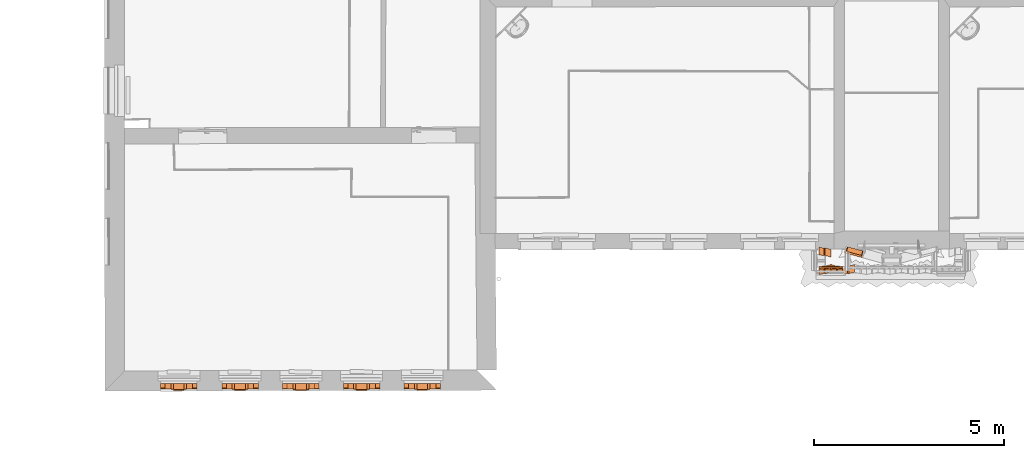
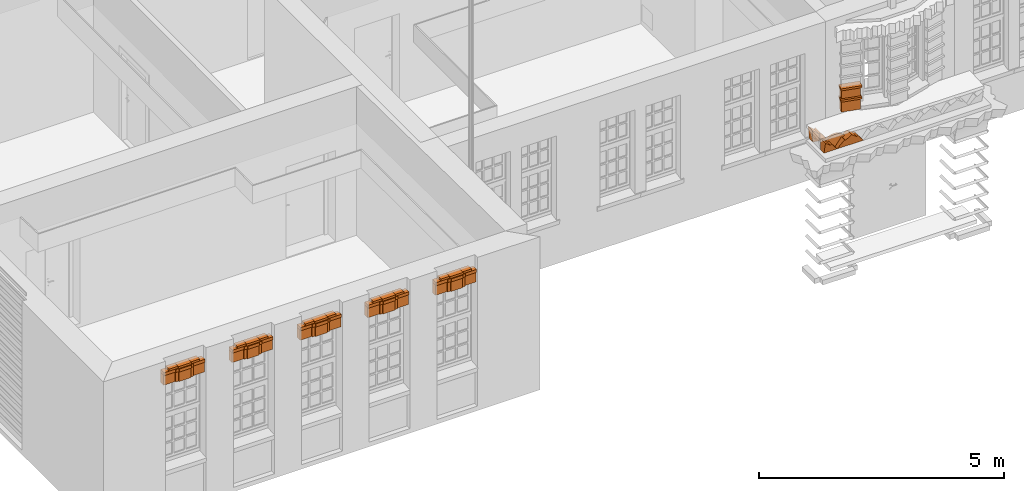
# One storey, part 139 of 158: 73 proxies.
"""IFC2X3 building model written with IfcOpenShell, lengths in metres."""

from ifc_helpers import new_model, entity, si_unit, converted_unit, derived_unit, money_unit, direction, frame, origin_with_axes, place, context, subcontext, project, spatial, faceted_brep, source, transform, mapped, material, type_object, element, save


model = new_model("IFC2X3")

# Units and contexts
model_context = context("Model", 3, precision=1e-05, world=origin_with_axes(), true_north=direction((0.0, 1.0)))
body_context = subcontext(model_context, "Body", "Model", "MODEL_VIEW")
ifc_project = project(units=[si_unit("LENGTHUNIT", "METRE"), si_unit("AREAUNIT", "SQUARE_METRE"), si_unit("VOLUMEUNIT", "CUBIC_METRE"), converted_unit("PLANEANGLEUNIT", "DEGREE", entity("IfcPlaneAngleMeasure", 0.0174532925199), si_unit("PLANEANGLEUNIT", "RADIAN"), dimensions=[0, 0, 0, 0, 0, 0, 0]), money_unit("EUR"), converted_unit("TIMEUNIT", "Year", entity("IfcTimeMeasure", 31556926.0), si_unit("TIMEUNIT", "SECOND"), dimensions=[0, 0, 1, 0, 0, 0, 0]), si_unit("MASSUNIT", "GRAM", prefix="KILO"), si_unit("THERMODYNAMICTEMPERATUREUNIT", "DEGREE_CELSIUS"), si_unit("LUMINOUSINTENSITYUNIT", "LUMEN"), si_unit("ENERGYUNIT", "JOULE", prefix="MEGA"), derived_unit("THERMALCONDUCTANCEUNIT", [(si_unit("POWERUNIT", "WATT"), 1), (si_unit("LENGTHUNIT", "METRE"), -1), (si_unit("THERMODYNAMICTEMPERATUREUNIT", "KELVIN"), -1)]), derived_unit("SPECIFICHEATCAPACITYUNIT", [(si_unit("ENERGYUNIT", "JOULE"), 1), (si_unit("MASSUNIT", "GRAM", prefix="KILO"), -1), (si_unit("THERMODYNAMICTEMPERATUREUNIT", "KELVIN"), -1)]), derived_unit("MASSDENSITYUNIT", [(si_unit("MASSUNIT", "GRAM", prefix="KILO"), 1), (si_unit("VOLUMEUNIT", "CUBIC_METRE"), -1)])], contexts=[model_context])

# Site, building, storey
site_placement = place(None, origin_with_axes())
site = spatial("IfcSite", under=ifc_project, at=site_placement, Name="Gelände", CompositionType="ELEMENT")
building_placement = place(site_placement, origin_with_axes())
building = spatial("IfcBuilding", under=site, at=building_placement, Name="Gebäude", CompositionType="ELEMENT")
storey_placement = place(building_placement, origin_with_axes())
storey = spatial("IfcBuildingStorey", under=building, at=storey_placement, Name="ERDGESCHOSS", CompositionType="ELEMENT", Elevation=0.0)

# Proxies
ifc_material = material(Name="01_ALLGEMEIN - BAUTEIL")
building_element_proxy_type = type_object("IfcBuildingElementProxyType", Name="01_ALLGEMEIN - BAUTEIL", PredefinedType="NOTDEFINED")
shared_shape_1 = source(origin_with_axes(), body_context, "Body", "Brep", [
    faceted_brep([(-0.405369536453, -0.125335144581, 0.282016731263), (-0.405369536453, -0.125335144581, 0.0), (0.0, -0.125335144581, 0.0), (0.0, -0.125335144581, 0.282016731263), (-0.405369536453, 0.0, 0.282016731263), (-0.405369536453, 0.0, 0.0), (0.0, 0.0, 0.0), (0.0, 0.0, 0.282016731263)], [[[0, 1, 2, 3]], [[1, 0, 4, 5]], [[5, 6, 2, 1]], [[3, 2, 6, 7]], [[0, 3, 7, 4]], [[6, 5, 4, 7]]]),
])
proxy_1_placement = place(storey_placement, frame((-8.5617104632, 9.92608158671, 1.26897611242), z_axis=(0.0, 0.0, 1.0), x_axis=(-0.968191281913, 0.250211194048, 0.0)))
element("IfcBuildingElementProxy", 1, at=proxy_1_placement, inside=storey, type_object=building_element_proxy_type, material=ifc_material, Name="Morph-174", context=body_context, shape_type="MappedRepresentation", body=[
    mapped(shared_shape_1, transform((0.0, 0.0, 0.0))),
])
shared_shape_2 = source(origin_with_axes(), body_context, "Body", "Brep", [
    faceted_brep([(-0.02, -0.125335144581, 0.05), (0.425369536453, -0.125335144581, 0.05), (0.425369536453, 0.05, 0.05), (-0.02, 0.05, 0.05), (-0.02, -0.125335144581, 0.0), (0.425369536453, -0.125335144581, 0.0), (0.425369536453, 0.05, 0.0), (-0.02, 0.05, 0.0)], [[[0, 1, 2, 3]], [[0, 4, 5, 1]], [[1, 5, 6, 2]], [[6, 7, 3, 2]], [[4, 0, 3, 7]], [[7, 6, 5, 4]]]),
])
proxy_2_placement = place(storey_placement, frame((-8.16923521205, 9.82465359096, 1.55099284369), z_axis=(0.0, 0.0, 1.0), x_axis=(-0.968191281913, 0.250211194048, 0.0)))
element("IfcBuildingElementProxy", 2, at=proxy_2_placement, inside=storey, type_object=building_element_proxy_type, material=ifc_material, Name="Morph-175", context=body_context, shape_type="MappedRepresentation", body=[
    mapped(shared_shape_2, transform((0.0, 0.0, 0.0))),
])
shared_shape_3 = source(origin_with_axes(), body_context, "Body", "Brep", [
    faceted_brep([(-0.405369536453, -0.125335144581, 0.0), (-0.405369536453, -0.125335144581, -0.232016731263), (0.0, -0.125335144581, -0.232016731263), (0.0, -0.125335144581, 0.0), (-0.405369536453, 0.0, 0.0), (-0.405369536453, 0.0, -0.232016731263), (0.0, 0.0, -0.232016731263), (0.0, 0.0, 0.0)], [[[0, 1, 2, 3]], [[1, 0, 4, 5]], [[2, 1, 5, 6]], [[3, 2, 6, 7]], [[7, 4, 0, 3]], [[4, 7, 6, 5]]]),
])
proxy_3_placement = place(storey_placement, frame((-8.5617104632, 9.92608158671, 1.83300957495), z_axis=(0.0, 0.0, 1.0), x_axis=(-0.968191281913, 0.250211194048, 0.0)))
element("IfcBuildingElementProxy", 3, at=proxy_3_placement, inside=storey, type_object=building_element_proxy_type, material=ifc_material, Name="Morph-176", context=body_context, shape_type="MappedRepresentation", body=[
    mapped(shared_shape_3, transform((0.0, 0.0, 0.0))),
])
shared_shape_4 = source(origin_with_axes(), body_context, "Body", "Brep", [
    faceted_brep([(0.02, -0.125335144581, -0.05), (-0.425369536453, -0.125335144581, -0.05), (-0.425369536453, 0.05, -0.05), (0.02, 0.05, -0.05), (-0.425369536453, -0.125335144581, 0.0), (0.02, -0.125335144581, 0.0), (-0.425369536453, 0.05, 0.0), (0.02, 0.05, 0.0)], [[[0, 1, 2, 3]], [[4, 1, 0, 5]], [[1, 4, 6, 2]], [[6, 7, 3, 2]], [[5, 0, 3, 7]], [[7, 6, 4, 5]]]),
])
proxy_4_placement = place(storey_placement, frame((-8.5617104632, 9.92608158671, 1.88300957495), z_axis=(0.0, 0.0, 1.0), x_axis=(-0.968191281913, 0.250211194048, 0.0)))
element("IfcBuildingElementProxy", 4, at=proxy_4_placement, inside=storey, type_object=building_element_proxy_type, material=ifc_material, Name="Morph-177", context=body_context, shape_type="MappedRepresentation", body=[
    mapped(shared_shape_4, transform((0.0, 0.0, 0.0))),
])
shared_shape_5 = source(origin_with_axes(), body_context, "Body", "Brep", [
    faceted_brep([(-0.302076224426, 0.0, 0.0689469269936), (-0.279160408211, 0.0, 0.134436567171), (-0.279160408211, 0.05, 0.134436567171), (-0.302076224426, 0.05, 0.0689469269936), (-0.309844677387, 0.0, 0.0), (0.309844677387, 0.0, 0.0), (0.302076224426, 0.0, 0.0689469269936), (0.279160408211, 0.0, 0.134436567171), (0.242246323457, 0.0, 0.193184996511), (0.193184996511, 0.0, 0.242246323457), (0.134436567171, 0.0, 0.279160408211), (0.0689469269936, 0.0, 0.302076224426), (0.0, 0.0, 0.309844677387), (-0.0689469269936, 0.0, 0.302076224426), (-0.134436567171, 0.0, 0.279160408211), (-0.193184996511, 0.0, 0.242246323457), (-0.242246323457, 0.0, 0.193184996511), (-0.242246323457, 0.05, 0.193184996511), (-0.309844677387, 0.05, 0.0), (-0.193184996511, 0.05, 0.242246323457), (-0.134436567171, 0.05, 0.279160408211), (-0.0689469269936, 0.05, 0.302076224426), (0.0, 0.05, 0.309844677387), (0.0689469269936, 0.05, 0.302076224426), (0.134436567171, 0.05, 0.279160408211), (0.193184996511, 0.05, 0.242246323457), (0.242246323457, 0.05, 0.193184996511), (0.279160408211, 0.05, 0.134436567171), (0.302076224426, 0.05, 0.0689469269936), (0.309844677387, 0.05, 0.0)], [[[0, 1, 2, 3]], [[0, 4, 5, 6, 7, 8, 9, 10, 11, 12, 13, 14, 15, 16, 1]], [[1, 16, 17, 2]], [[18, 3, 2, 17, 19, 20, 21, 22, 23, 24, 25, 26, 27, 28, 29]], [[4, 0, 3, 18]], [[4, 18, 29, 5]], [[6, 5, 29, 28]], [[27, 7, 6, 28]], [[8, 7, 27, 26]], [[9, 8, 26, 25]], [[10, 9, 25, 24]], [[11, 10, 24, 23]], [[12, 11, 23, 22]], [[13, 12, 22, 21]], [[14, 13, 21, 20]], [[15, 14, 20, 19]], [[16, 15, 19, 17]]]),
])
proxy_5_placement = place(storey_placement, frame((-8.97287873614, 9.47253947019, 0.8259985), z_axis=(0.0, 0.0, 1.0), x_axis=(1.0, 0.0, 0.0)))
element("IfcBuildingElementProxy", 5, at=proxy_5_placement, inside=storey, type_object=building_element_proxy_type, material=ifc_material, Name="Morph-186", context=body_context, shape_type="MappedRepresentation", body=[
    mapped(shared_shape_5, transform((0.0, 0.0, 0.0))),
])
shared_shape_6 = source(origin_with_axes(), body_context, "Body", "Brep", [
    faceted_brep([(-0.000199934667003, 0.14330366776, -0.025), (0.0, 0.0, -0.025), (0.205766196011, 0.000287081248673, -0.025), (0.205566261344, 0.143590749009, -0.025), (0.0, 0.0, -0.0752610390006), (-0.000199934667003, 0.14330366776, -0.0752610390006), (0.205766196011, 0.000287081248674, -0.0752610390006), (0.205566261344, 0.143590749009, -0.0752610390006)], [[[0, 1, 2, 3]], [[4, 1, 0, 5]], [[1, 4, 6, 2]], [[2, 6, 7, 3]], [[5, 0, 3, 7]], [[4, 5, 7, 6]]]),
])
for number, where, z_axis, x_axis, name in (
    (6, (-24.3442608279, 6.31822175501, 3.3562370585), (0.0, 0.0, 1.0), (1.0, 0.0, 0.0), "Morph-286"),
    (7, (-22.7432662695, 6.31377228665, 3.3562370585), (0.0, 0.0, 1.0), (1.0, 0.0, 0.0), "Morph-286"),
    (8, (-19.5540988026, 6.31822175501, 3.3562370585), (0.0, 0.0, 1.0), (1.0, 0.0, 0.0), "Morph-286"),
    (9, (-21.1506305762, 6.31599430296, 3.3562370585), (0.0, 0.0, 1.0), (1.0, 0.0, 0.0), "Morph-286"),
    (10, (-25.9520304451, 6.31822175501, 3.3562370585), (0.0, 0.0, 1.0), (1.0, 0.0, 0.0), "Morph-286"),
):
    element("IfcBuildingElementProxy", number, at=place(storey_placement, frame(where, z_axis=z_axis, x_axis=x_axis)), inside=storey, type_object=building_element_proxy_type, material=ifc_material, Name=name, context=body_context, shape_type="MappedRepresentation", body=[
        mapped(shared_shape_6, transform((0.0, 0.0, 0.0))),
    ])
shared_shape_7 = source(origin_with_axes(), body_context, "Body", "Brep", [
    faceted_brep([(-0.205966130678, 0.143016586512, -0.0752610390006), (-0.205966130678, 0.143016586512, -0.025), (-0.000199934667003, 0.14330366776, -0.025), (-0.000199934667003, 0.14330366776, -0.0752610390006), (-0.205766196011, -0.000287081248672, -0.0752610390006), (-0.205766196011, -0.000287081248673, -0.025), (0.0, 0.0, -0.025), (0.0, 0.0, -0.0752610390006)], [[[0, 1, 2, 3]], [[4, 5, 1, 0]], [[1, 5, 6, 2]], [[3, 2, 6, 7]], [[4, 0, 3, 7]], [[5, 4, 7, 6]]]),
])
for number, where, z_axis, x_axis, name in (
    (11, (-24.6531935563, 6.31779073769, 3.3562370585), (0.0, 0.0, 1.0), (1.0, 0.0, 0.0), "Morph-287"),
    (12, (-21.4595633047, 6.31556328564, 3.3562370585), (0.0, 0.0, 1.0), (1.0, 0.0, 0.0), "Morph-287"),
    (13, (-19.863031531, 6.31779073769, 3.3562370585), (0.0, 0.0, 1.0), (1.0, 0.0, 0.0), "Morph-287"),
    (14, (-23.0521989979, 6.31334126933, 3.3562370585), (0.0, 0.0, 1.0), (1.0, 0.0, 0.0), "Morph-287"),
    (15, (-26.2609631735, 6.31779073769, 3.3562370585), (0.0, 0.0, 1.0), (1.0, 0.0, 0.0), "Morph-287"),
):
    element("IfcBuildingElementProxy", number, at=place(storey_placement, frame(where, z_axis=z_axis, x_axis=x_axis)), inside=storey, type_object=building_element_proxy_type, material=ifc_material, Name=name, context=body_context, shape_type="MappedRepresentation", body=[
        mapped(shared_shape_7, transform((0.0, 0.0, 0.0))),
    ])
shared_shape_8 = source(origin_with_axes(), body_context, "Body", "Brep", [
    faceted_brep([(-0.000200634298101, 0.14380513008, 0.0752610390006), (0.0, 0.0, 0.0752610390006), (0.273425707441, 0.000381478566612, 0.0752610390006), (0.273225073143, 0.144186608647, 0.0752610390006), (-0.000200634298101, 0.14380513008, 0.0), (0.0, 0.0, 0.0), (0.273425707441, 0.000381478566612, 0.0), (0.273225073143, 0.144186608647, 0.0)], [[[0, 1, 2, 3]], [[1, 0, 4, 5]], [[5, 6, 2, 1]], [[7, 3, 2, 6]], [[4, 0, 3, 7]], [[5, 4, 7, 6]]]),
])
for number, where, z_axis, x_axis, name in (
    (16, (-26.5856630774, 6.316836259, 3.2057149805), (0.0, 0.0, 1.0), (1.0, 0.0, 0.0), "Morph-288"),
    (17, (-24.9778934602, 6.316836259, 3.2057149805), (0.0, 0.0, 1.0), (1.0, 0.0, 0.0), "Morph-288"),
    (18, (-21.7842632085, 6.31460880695, 3.2057149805), (0.0, 0.0, 1.0), (1.0, 0.0, 0.0), "Morph-288"),
    (19, (-20.1877314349, 6.316836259, 3.2057149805), (0.0, 0.0, 1.0), (1.0, 0.0, 0.0), "Morph-288"),
    (20, (-23.3768989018, 6.31238679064, 3.2057149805), (0.0, 0.0, 1.0), (1.0, 0.0, 0.0), "Morph-288"),
):
    element("IfcBuildingElementProxy", number, at=place(storey_placement, frame(where, z_axis=z_axis, x_axis=x_axis)), inside=storey, type_object=building_element_proxy_type, material=ifc_material, Name=name, context=body_context, shape_type="MappedRepresentation", body=[
        mapped(shared_shape_8, transform((0.0, 0.0, 0.0))),
    ])
shared_shape_9 = source(origin_with_axes(), body_context, "Body", "Brep", [
    faceted_brep([(-0.000200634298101, 0.14380513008, 0.0752610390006), (-2.79036085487e-05, 0.0199999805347, 0.0752610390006), (0.273397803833, 0.0203814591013, 0.0752610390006), (0.273225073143, 0.144186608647, 0.0752610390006), (-0.000200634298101, 0.14380513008, -0.174645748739), (-2.79036085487e-05, 0.0199999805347, -0.174645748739), (0.273397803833, 0.0203814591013, -0.174645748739), (0.273225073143, 0.144186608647, -0.174645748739)], [[[0, 1, 2, 3]], [[1, 0, 4, 5]], [[5, 6, 2, 1]], [[7, 3, 2, 6]], [[4, 0, 3, 7]], [[5, 4, 7, 6]]]),
])
for number, where, z_axis, x_axis, name in (
    (21, (-26.5856630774, 6.316836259, 3.1304539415), (0.0, 0.0, 1.0), (1.0, 0.0, 0.0), "Morph-288"),
    (22, (-21.7842632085, 6.31460880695, 3.1304539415), (0.0, 0.0, 1.0), (1.0, 0.0, 0.0), "Morph-288"),
    (23, (-20.1877314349, 6.316836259, 3.1304539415), (0.0, 0.0, 1.0), (1.0, 0.0, 0.0), "Morph-288"),
    (24, (-23.3768989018, 6.31238679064, 3.1304539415), (0.0, 0.0, 1.0), (1.0, 0.0, 0.0), "Morph-288"),
    (25, (-24.9778934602, 6.316836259, 3.1304539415), (0.0, 0.0, 1.0), (1.0, 0.0, 0.0), "Morph-288"),
):
    element("IfcBuildingElementProxy", number, at=place(storey_placement, frame(where, z_axis=z_axis, x_axis=x_axis)), inside=storey, type_object=building_element_proxy_type, material=ifc_material, Name=name, context=body_context, shape_type="MappedRepresentation", body=[
        mapped(shared_shape_9, transform((0.0, 0.0, 0.0))),
    ])
shared_shape_10 = source(origin_with_axes(), body_context, "Body", "Brep", [
    faceted_brep([(-0.000200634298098, 0.14380513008, -0.249906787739), (0.0, 0.0, -0.249906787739), (0.0, 0.0, 0.0), (-0.000200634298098, 0.14380513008, 0.0), (0.0661018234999, 0.143897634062, -0.249906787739), (0.0663024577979, 9.25039814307e-05, -0.249906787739), (0.0663024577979, 9.25039814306e-05, 0.0), (0.0661018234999, 0.143897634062, 0.0)], [[[0, 1, 2, 3]], [[1, 0, 4, 5]], [[6, 2, 1, 5]], [[3, 2, 6, 7]], [[0, 3, 7, 4]], [[6, 5, 4, 7]]]),
])
for number, where, z_axis, x_axis, name in (
    (26, (-23.1034731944, 6.31276826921, 3.2057149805), (0.0, 0.0, 1.0), (1.0, 0.0, 0.0), "Morph-289"),
    (27, (-24.7044677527, 6.31721773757, 3.2057149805), (0.0, 0.0, 1.0), (1.0, 0.0, 0.0), "Morph-289"),
    (28, (-21.5108375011, 6.31499028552, 3.2057149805), (0.0, 0.0, 1.0), (1.0, 0.0, 0.0), "Morph-289"),
    (29, (-26.3122373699, 6.31721773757, 3.2057149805), (0.0, 0.0, 1.0), (1.0, 0.0, 0.0), "Morph-289"),
    (30, (-19.9143057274, 6.31721773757, 3.2057149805), (0.0, 0.0, 1.0), (1.0, 0.0, 0.0), "Morph-289"),
):
    element("IfcBuildingElementProxy", number, at=place(storey_placement, frame(where, z_axis=z_axis, x_axis=x_axis)), inside=storey, type_object=building_element_proxy_type, material=ifc_material, Name=name, context=body_context, shape_type="MappedRepresentation", body=[
        mapped(shared_shape_10, transform((0.0, 0.0, 0.0))),
    ])
shared_shape_11 = source(origin_with_axes(), body_context, "Body", "Brep", [
    faceted_brep([(-0.000200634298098, 0.14380513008, -0.0752610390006), (2.79036085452e-05, -0.0199999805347, -0.0752610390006), (2.79036085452e-05, -0.0199999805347, 0.0), (-0.000200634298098, 0.14380513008, 0.0), (0.0661018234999, 0.143897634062, -0.0752610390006), (0.0663303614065, -0.0199074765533, -0.0752610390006), (0.0663303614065, -0.0199074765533, 0.0), (0.0661018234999, 0.143897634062, 0.0)], [[[0, 1, 2, 3]], [[1, 0, 4, 5]], [[6, 2, 1, 5]], [[3, 2, 6, 7]], [[0, 3, 7, 4]], [[6, 5, 4, 7]]]),
])
for number, where, z_axis, x_axis, name in (
    (31, (-21.5108375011, 6.31499028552, 3.2809760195), (0.0, 0.0, 1.0), (1.0, 0.0, 0.0), "Morph-289"),
    (32, (-24.7044677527, 6.31721773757, 3.2809760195), (0.0, 0.0, 1.0), (1.0, 0.0, 0.0), "Morph-289"),
    (33, (-23.1034731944, 6.31276826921, 3.2809760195), (0.0, 0.0, 1.0), (1.0, 0.0, 0.0), "Morph-289"),
    (34, (-19.9143057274, 6.31721773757, 3.2809760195), (0.0, 0.0, 1.0), (1.0, 0.0, 0.0), "Morph-289"),
    (35, (-26.3122373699, 6.31721773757, 3.2809760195), (0.0, 0.0, 1.0), (1.0, 0.0, 0.0), "Morph-289"),
):
    element("IfcBuildingElementProxy", number, at=place(storey_placement, frame(where, z_axis=z_axis, x_axis=x_axis)), inside=storey, type_object=building_element_proxy_type, material=ifc_material, Name=name, context=body_context, shape_type="MappedRepresentation", body=[
        mapped(shared_shape_11, transform((0.0, 0.0, 0.0))),
    ])
shared_shape_12 = source(origin_with_axes(), body_context, "Body", "Brep", [
    faceted_brep([(-0.000200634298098, 0.14380513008, 0.0752610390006), (5.58072170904e-05, -0.0399999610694, 0.0752610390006), (0.280598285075, -0.0396085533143, 0.0752610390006), (0.28034184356, 0.144196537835, 0.0752610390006), (-0.000200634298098, 0.14380513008, 0.0), (5.58072170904e-05, -0.0399999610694, 0.0), (0.280598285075, -0.0396085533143, 0.0), (0.28034184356, 0.144196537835, 0.0)], [[[0, 1, 2, 3]], [[1, 0, 4, 5]], [[5, 6, 2, 1]], [[7, 3, 2, 6]], [[4, 0, 3, 7]], [[5, 4, 7, 6]]]),
])
for number, where, z_axis, x_axis, name in (
    (36, (-24.6381652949, 6.31731024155, 3.2057149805), (0.0, 0.0, 1.0), (1.0, 0.0, 0.0), "Morph-290"),
    (37, (-19.8480032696, 6.31731024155, 3.2057149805), (0.0, 0.0, 1.0), (1.0, 0.0, 0.0), "Morph-290"),
    (38, (-26.2459349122, 6.31731024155, 3.2057149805), (0.0, 0.0, 1.0), (1.0, 0.0, 0.0), "Morph-290"),
    (39, (-23.0371707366, 6.31286077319, 3.2057149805), (0.0, 0.0, 1.0), (1.0, 0.0, 0.0), "Morph-290"),
    (40, (-21.4445350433, 6.3150827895, 3.2057149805), (0.0, 0.0, 1.0), (1.0, 0.0, 0.0), "Morph-290"),
):
    element("IfcBuildingElementProxy", number, at=place(storey_placement, frame(where, z_axis=z_axis, x_axis=x_axis)), inside=storey, type_object=building_element_proxy_type, material=ifc_material, Name=name, context=body_context, shape_type="MappedRepresentation", body=[
        mapped(shared_shape_12, transform((0.0, 0.0, 0.0))),
    ])
shared_shape_13 = source(origin_with_axes(), body_context, "Body", "Brep", [
    faceted_brep([(2.79036085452e-05, -0.0199999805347, 0.0752610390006), (-0.000200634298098, 0.14380513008, 0.0752610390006), (-0.000200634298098, 0.14380513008, -0.174645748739), (2.79036085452e-05, -0.0199999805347, -0.174645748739), (0.280570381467, -0.0196085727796, 0.0752610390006), (0.28034184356, 0.144196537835, 0.0752610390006), (0.28034184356, 0.144196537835, -0.174645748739), (0.280570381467, -0.0196085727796, -0.174645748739)], [[[0, 1, 2, 3]], [[1, 0, 4, 5]], [[2, 1, 5, 6]], [[3, 2, 6, 7]], [[3, 7, 4, 0]], [[6, 5, 4, 7]]]),
])
for number, where, z_axis, x_axis, name in (
    (41, (-19.8480032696, 6.31731024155, 3.1304539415), (0.0, 0.0, 1.0), (1.0, 0.0, 0.0), "Morph-290"),
    (42, (-23.0371707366, 6.31286077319, 3.1304539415), (0.0, 0.0, 1.0), (1.0, 0.0, 0.0), "Morph-290"),
    (43, (-24.6381652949, 6.31731024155, 3.1304539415), (0.0, 0.0, 1.0), (1.0, 0.0, 0.0), "Morph-290"),
    (44, (-21.4445350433, 6.3150827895, 3.1304539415), (0.0, 0.0, 1.0), (1.0, 0.0, 0.0), "Morph-290"),
    (45, (-26.2459349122, 6.31731024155, 3.1304539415), (0.0, 0.0, 1.0), (1.0, 0.0, 0.0), "Morph-290"),
):
    element("IfcBuildingElementProxy", number, at=place(storey_placement, frame(where, z_axis=z_axis, x_axis=x_axis)), inside=storey, type_object=building_element_proxy_type, material=ifc_material, Name=name, context=body_context, shape_type="MappedRepresentation", body=[
        mapped(shared_shape_13, transform((0.0, 0.0, 0.0))),
    ])
shared_shape_14 = source(origin_with_axes(), body_context, "Body", "Brep", [
    faceted_brep([(-0.000200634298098, 0.14380513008, -0.0752610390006), (2.79036085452e-05, -0.0199999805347, -0.0752610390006), (2.79036085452e-05, -0.0199999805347, 0.0), (-0.000200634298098, 0.14380513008, 0.0), (0.0661018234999, 0.143897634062, -0.0752610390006), (0.0663303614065, -0.0199074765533, -0.0752610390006), (0.0663303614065, -0.0199074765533, 0.0), (0.0661018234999, 0.143897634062, 0.0)], [[[0, 1, 2, 3]], [[1, 0, 4, 5]], [[6, 2, 1, 5]], [[3, 2, 6, 7]], [[0, 3, 7, 4]], [[6, 5, 4, 7]]]),
])
for number, where, z_axis, x_axis, name in (
    (46, (-24.3576228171, 6.31770164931, 3.2809760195), (0.0, 0.0, 1.0), (1.0, 0.0, 0.0), "Morph-291"),
    (47, (-21.1639925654, 6.31547419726, 3.2809760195), (0.0, 0.0, 1.0), (1.0, 0.0, 0.0), "Morph-291"),
    (48, (-19.5674607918, 6.31770164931, 3.2809760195), (0.0, 0.0, 1.0), (1.0, 0.0, 0.0), "Morph-291"),
    (49, (-25.9653924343, 6.31770164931, 3.2809760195), (0.0, 0.0, 1.0), (1.0, 0.0, 0.0), "Morph-291"),
    (50, (-22.7566282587, 6.31325218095, 3.2809760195), (0.0, 0.0, 1.0), (1.0, 0.0, 0.0), "Morph-291"),
):
    element("IfcBuildingElementProxy", number, at=place(storey_placement, frame(where, z_axis=z_axis, x_axis=x_axis)), inside=storey, type_object=building_element_proxy_type, material=ifc_material, Name=name, context=body_context, shape_type="MappedRepresentation", body=[
        mapped(shared_shape_14, transform((0.0, 0.0, 0.0))),
    ])
shared_shape_15 = source(origin_with_axes(), body_context, "Body", "Brep", [
    faceted_brep([(-0.000200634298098, 0.14380513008, -0.249906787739), (0.0, 0.0, -0.249906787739), (0.0, 0.0, 0.0), (-0.000200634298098, 0.14380513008, 0.0), (0.0661018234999, 0.143897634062, -0.249906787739), (0.0663024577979, 9.25039814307e-05, -0.249906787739), (0.0663024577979, 9.25039814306e-05, 0.0), (0.0661018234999, 0.143897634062, 0.0)], [[[0, 1, 2, 3]], [[1, 0, 4, 5]], [[6, 2, 1, 5]], [[3, 2, 6, 7]], [[0, 3, 7, 4]], [[6, 5, 4, 7]]]),
])
for number, where, z_axis, x_axis, name in (
    (51, (-22.7566282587, 6.31325218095, 3.2057149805), (0.0, 0.0, 1.0), (1.0, 0.0, 0.0), "Morph-291"),
    (52, (-24.3576228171, 6.31770164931, 3.2057149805), (0.0, 0.0, 1.0), (1.0, 0.0, 0.0), "Morph-291"),
    (53, (-19.5674607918, 6.31770164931, 3.2057149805), (0.0, 0.0, 1.0), (1.0, 0.0, 0.0), "Morph-291"),
    (54, (-21.1639925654, 6.31547419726, 3.2057149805), (0.0, 0.0, 1.0), (1.0, 0.0, 0.0), "Morph-291"),
    (55, (-25.9653924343, 6.31770164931, 3.2057149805), (0.0, 0.0, 1.0), (1.0, 0.0, 0.0), "Morph-291"),
):
    element("IfcBuildingElementProxy", number, at=place(storey_placement, frame(where, z_axis=z_axis, x_axis=x_axis)), inside=storey, type_object=building_element_proxy_type, material=ifc_material, Name=name, context=body_context, shape_type="MappedRepresentation", body=[
        mapped(shared_shape_15, transform((0.0, 0.0, 0.0))),
    ])
shared_shape_16 = source(origin_with_axes(), body_context, "Body", "Brep", [
    faceted_brep([(-0.000200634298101, 0.14380513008, 0.0752610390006), (-2.79036085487e-05, 0.0199999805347, 0.0752610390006), (0.273397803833, 0.0203814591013, 0.0752610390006), (0.273225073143, 0.144186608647, 0.0752610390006), (-0.000200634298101, 0.14380513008, -0.174645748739), (-2.79036085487e-05, 0.0199999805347, -0.174645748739), (0.273397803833, 0.0203814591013, -0.174645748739), (0.273225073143, 0.144186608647, -0.174645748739)], [[[0, 1, 2, 3]], [[1, 0, 4, 5]], [[5, 6, 2, 1]], [[7, 3, 2, 6]], [[4, 0, 3, 7]], [[5, 4, 7, 6]]]),
])
for number, where, z_axis, x_axis, name in (
    (56, (-22.6903258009, 6.31334468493, 3.1304539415), (0.0, 0.0, 1.0), (1.0, 0.0, 0.0), "Morph-292"),
    (57, (-19.501158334, 6.31779415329, 3.1304539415), (0.0, 0.0, 1.0), (1.0, 0.0, 0.0), "Morph-292"),
    (58, (-21.0976901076, 6.31556670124, 3.1304539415), (0.0, 0.0, 1.0), (1.0, 0.0, 0.0), "Morph-292"),
    (59, (-25.8990899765, 6.31779415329, 3.1304539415), (0.0, 0.0, 1.0), (1.0, 0.0, 0.0), "Morph-292"),
    (60, (-24.2913203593, 6.31779415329, 3.1304539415), (0.0, 0.0, 1.0), (1.0, 0.0, 0.0), "Morph-292"),
):
    element("IfcBuildingElementProxy", number, at=place(storey_placement, frame(where, z_axis=z_axis, x_axis=x_axis)), inside=storey, type_object=building_element_proxy_type, material=ifc_material, Name=name, context=body_context, shape_type="MappedRepresentation", body=[
        mapped(shared_shape_16, transform((0.0, 0.0, 0.0))),
    ])
shared_shape_17 = source(origin_with_axes(), body_context, "Body", "Brep", [
    faceted_brep([(-0.000200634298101, 0.14380513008, 0.0752610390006), (0.0, 0.0, 0.0752610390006), (0.273425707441, 0.000381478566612, 0.0752610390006), (0.273225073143, 0.144186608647, 0.0752610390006), (-0.000200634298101, 0.14380513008, 0.0), (0.0, 0.0, 0.0), (0.273425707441, 0.000381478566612, 0.0), (0.273225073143, 0.144186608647, 0.0)], [[[0, 1, 2, 3]], [[1, 0, 4, 5]], [[5, 6, 2, 1]], [[7, 3, 2, 6]], [[4, 0, 3, 7]], [[5, 4, 7, 6]]]),
])
for number, where, z_axis, x_axis, name in (
    (61, (-19.501158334, 6.31779415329, 3.2057149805), (0.0, 0.0, 1.0), (1.0, 0.0, 0.0), "Morph-292"),
    (62, (-24.2913203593, 6.31779415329, 3.2057149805), (0.0, 0.0, 1.0), (1.0, 0.0, 0.0), "Morph-292"),
    (63, (-21.0976901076, 6.31556670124, 3.2057149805), (0.0, 0.0, 1.0), (1.0, 0.0, 0.0), "Morph-292"),
    (64, (-22.6903258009, 6.31334468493, 3.2057149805), (0.0, 0.0, 1.0), (1.0, 0.0, 0.0), "Morph-292"),
    (65, (-25.8990899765, 6.31779415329, 3.2057149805), (0.0, 0.0, 1.0), (1.0, 0.0, 0.0), "Morph-292"),
):
    element("IfcBuildingElementProxy", number, at=place(storey_placement, frame(where, z_axis=z_axis, x_axis=x_axis)), inside=storey, type_object=building_element_proxy_type, material=ifc_material, Name=name, context=body_context, shape_type="MappedRepresentation", body=[
        mapped(shared_shape_17, transform((0.0, 0.0, 0.0))),
    ])
shared_shape_18 = source(origin_with_axes(), body_context, "Body", "Brep", [
    faceted_brep([(0.309844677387, -0.200000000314, 0.0), (0.309844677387, -0.0628254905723, 0.0), (0.309844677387, -0.0628254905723, 0.286749), (0.309844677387, -0.262825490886, 0.286749), (0.178958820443, -0.200000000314, 0.0), (0.150128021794, -0.200000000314, 0.0), (0.0, -0.200000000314, 0.0), (0.0, 0.0, 0.0), (0.150128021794, -0.0440829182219, 0.0), (0.178958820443, -0.0358064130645, 0.0), (0.178958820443, -0.0358064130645, 0.175572), (0.178958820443, -0.235806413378, 0.175572), (0.150128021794, -0.244082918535, 0.19807), (0.150128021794, -0.0440829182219, 0.19807)], [[[0, 1, 2, 3]], [[0, 4, 5, 6, 7, 8, 9, 1]], [[1, 9, 10, 2]], [[3, 2, 11]], [[11, 0, 3]], [[4, 0, 11]], [[11, 5, 4]], [[12, 6, 5]], [[13, 7, 6]], [[8, 7, 13]], [[9, 8, 13, 10]], [[11, 2, 10]], [[12, 5, 11]], [[13, 6, 12]], [[10, 13, 11]], [[11, 13, 12]]]),
])
proxy_6_placement = place(storey_placement, frame((-8.97287873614, 9.7791472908, 0.8259985), z_axis=(0.0, 0.0, 1.0), x_axis=(-1.0, 0.0, 0.0)))
element("IfcBuildingElementProxy", 66, at=proxy_6_placement, inside=storey, type_object=building_element_proxy_type, material=ifc_material, Name="Morph-302", context=body_context, shape_type="MappedRepresentation", body=[
    mapped(shared_shape_18, transform((0.0, 0.0, 0.0))),
])
shared_shape_19 = source(origin_with_axes(), body_context, "Body", "Brep", [
    faceted_brep([(-0.46956133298, -0.200000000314, 0.0), (-0.46956133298, -0.244082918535, 0.19807), (-0.619689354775, -0.200000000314, 0.0), (-0.440730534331, -0.235806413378, 0.175572), (-0.46956133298, -0.0440829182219, 0.19807), (-0.440730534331, -0.200000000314, 0.0), (-0.619689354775, 0.0, 0.0), (-0.46956133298, -0.0440829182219, 0.0), (-0.440730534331, -0.0358064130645, 0.0), (-0.309844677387, -0.0628254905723, 0.0), (-0.178958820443, -0.0358064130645, 0.0), (-0.150128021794, -0.0440829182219, 0.0), (0.0, 0.0, 0.0), (0.0, -0.200000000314, 0.0), (-0.150128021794, -0.200000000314, 0.0), (-0.178958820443, -0.200000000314, 0.0), (-0.309844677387, -0.200000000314, 0.0), (-0.440730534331, -0.0358064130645, 0.175572), (-0.309844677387, -0.0628254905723, 0.286749), (-0.178958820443, -0.0358064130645, 0.175572), (-0.150128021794, -0.0440829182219, 0.19807), (-0.150128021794, -0.244082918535, 0.19807), (-0.178958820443, -0.235806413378, 0.175572), (-0.309844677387, -0.262825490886, 0.286749)], [[[0, 1, 2]], [[1, 0, 3]], [[2, 1, 4]], [[5, 0, 2, 6, 7, 8, 9, 10, 11, 12, 13, 14, 15, 16]], [[5, 3, 0]], [[1, 3, 4]], [[2, 4, 6]], [[4, 7, 6]], [[7, 4, 17, 8]], [[9, 8, 17, 18]], [[9, 18, 19, 10]], [[10, 19, 20, 11]], [[11, 20, 12]], [[20, 13, 12]], [[21, 14, 13]], [[22, 15, 14]], [[15, 22, 16]], [[3, 5, 16]], [[4, 3, 17]], [[17, 3, 18]], [[22, 19, 18]], [[19, 22, 20]], [[21, 13, 20]], [[14, 21, 22]], [[23, 16, 22]], [[3, 16, 23]], [[3, 23, 18]], [[23, 22, 18]], [[22, 21, 20]]]),
])
proxy_7_placement = place(storey_placement, frame((-8.35318938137, 9.58536496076, 0.8259985), z_axis=(0.0, 0.0, 1.0), x_axis=(1.0, 0.0, 0.0)))
element("IfcBuildingElementProxy", 67, at=proxy_7_placement, inside=storey, type_object=building_element_proxy_type, material=ifc_material, Name="Morph-302", context=body_context, shape_type="MappedRepresentation", body=[
    mapped(shared_shape_19, transform((0.0, 0.0, 0.0))),
])
shared_shape_20 = source(origin_with_axes(), body_context, "Body", "Brep", [
    faceted_brep([(-0.309844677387, -0.200000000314, 0.0), (-0.309844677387, -0.262825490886, 0.286749), (-0.309844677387, -0.0628254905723, 0.286749), (-0.309844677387, -0.0628254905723, 0.0), (-0.178958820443, -0.235806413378, 0.175572), (-0.178958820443, -0.0358064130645, 0.175572), (-0.178958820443, -0.0358064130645, 0.0), (-0.150128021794, -0.0440829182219, 0.0), (0.0, 0.0, 0.0), (0.0, -0.200000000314, 0.0), (-0.150128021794, -0.200000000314, 0.0), (-0.178958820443, -0.200000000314, 0.0), (-0.150128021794, -0.0440829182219, 0.19807), (-0.150128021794, -0.244082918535, 0.19807)], [[[0, 1, 2, 3]], [[4, 1, 0]], [[1, 4, 2]], [[3, 2, 5, 6]], [[0, 3, 6, 7, 8, 9, 10, 11]], [[11, 4, 0]], [[4, 5, 2]], [[6, 5, 12, 7]], [[7, 12, 8]], [[12, 9, 8]], [[13, 10, 9]], [[4, 11, 10]], [[5, 4, 12]], [[12, 13, 9]], [[13, 4, 10]], [[4, 13, 12]]]),
])
proxy_8_placement = place(storey_placement, frame((-8.97287873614, 9.58536496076, 0.8259985), z_axis=(0.0, 0.0, 1.0), x_axis=(1.0, 0.0, 0.0)))
element("IfcBuildingElementProxy", 68, at=proxy_8_placement, inside=storey, type_object=building_element_proxy_type, material=ifc_material, Name="Morph-302", context=body_context, shape_type="MappedRepresentation", body=[
    mapped(shared_shape_20, transform((0.0, 0.0, 0.0))),
])
shared_shape_21 = source(origin_with_axes(), body_context, "Body", "Brep", [
    faceted_brep([(2.79036085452e-05, -0.0199999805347, 0.0), (2.79036085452e-05, -0.0199999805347, 0.0502610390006), (-0.000199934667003, 0.14330366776, 0.0502610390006), (-0.000199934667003, 0.14330366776, 0.0), (0.308960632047, -0.0195689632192, 0.0), (0.308960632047, -0.0195689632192, 0.0502610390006), (0.308732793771, 0.143734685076, 0.0502610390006), (0.308732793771, 0.143734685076, 0.0)], [[[0, 1, 2, 3]], [[1, 0, 4, 5]], [[2, 1, 5, 6]], [[3, 2, 6, 7]], [[0, 3, 7, 4]], [[7, 6, 5, 4]]]),
])
for number, where, z_axis, x_axis, name in (
    (69, (-26.2609631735, 6.31779073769, 3.2809760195), (0.0, 0.0, 1.0), (1.0, 0.0, 0.0), "Morph-320"),
    (70, (-23.0521989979, 6.31334126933, 3.2809760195), (0.0, 0.0, 1.0), (1.0, 0.0, 0.0), "Morph-320"),
    (71, (-21.4595633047, 6.31556328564, 3.2809760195), (0.0, 0.0, 1.0), (1.0, 0.0, 0.0), "Morph-320"),
    (72, (-24.6531935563, 6.31779073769, 3.2809760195), (0.0, 0.0, 1.0), (1.0, 0.0, 0.0), "Morph-320"),
    (73, (-19.863031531, 6.31779073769, 3.2809760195), (0.0, 0.0, 1.0), (1.0, 0.0, 0.0), "Morph-320"),
):
    element("IfcBuildingElementProxy", number, at=place(storey_placement, frame(where, z_axis=z_axis, x_axis=x_axis)), inside=storey, type_object=building_element_proxy_type, material=ifc_material, Name=name, context=body_context, shape_type="MappedRepresentation", body=[
        mapped(shared_shape_21, transform((0.0, 0.0, 0.0))),
    ])

save(model, "model.ifc")
